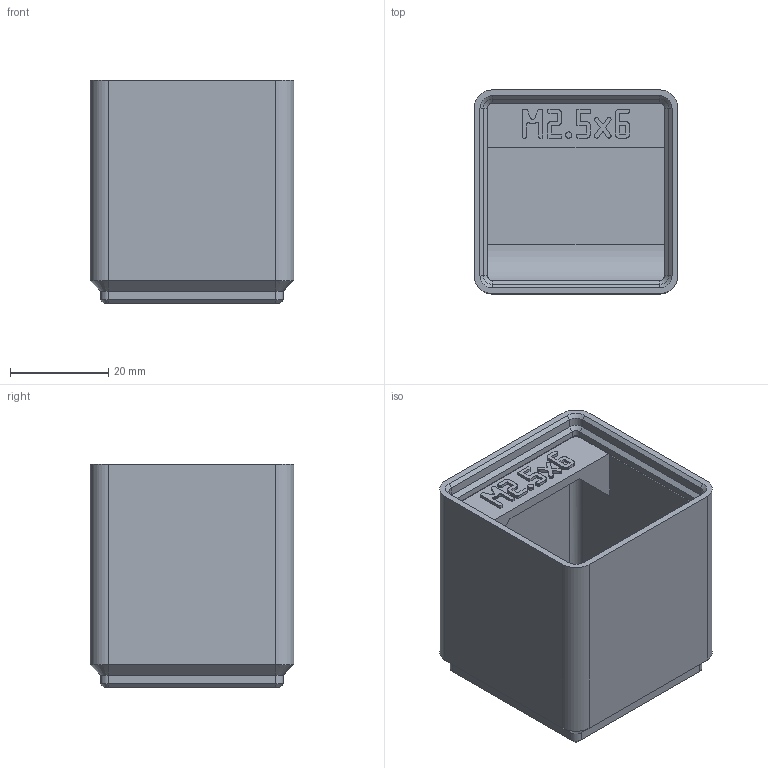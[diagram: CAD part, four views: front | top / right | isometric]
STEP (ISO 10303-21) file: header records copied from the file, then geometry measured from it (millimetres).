
FILE_DESCRIPTION(('Open CASCADE Model'),'2;1');
FILE_NAME('Open CASCADE Shape Model','2026-11-03T10:35:57',('Author'),( 'Open CASCADE'),'Open CASCADE STEP processor 8.0','build123d', 'Unknown');
FILE_SCHEMA(('AUTOMOTIVE_DESIGN { 1 0 10303 214 1 1 1 1 }'));
Length unit declared in the file: millimetre
Products named in the file (1): COMPOUND
Bounding box: 41.5 x 41.5 x 45.55 mm (x, y, z)
Volume: 24946.7 mm3; surface area: 16515.6 mm2
Topology: 1 solids, 1 shells, 694 faces, 1992 edges, 1308 vertices
Faces by surface type: plane 653, cylinder 21, cone 20
Entity records: 46971 total; most frequent: CARTESIAN_POINT 9717, DIRECTION 5989, LINE 4484, VECTOR 4484, ORIENTED_EDGE 3984, PCURVE 3984, DEFINITIONAL_REPRESENTATION 3984, EDGE_CURVE 1992
